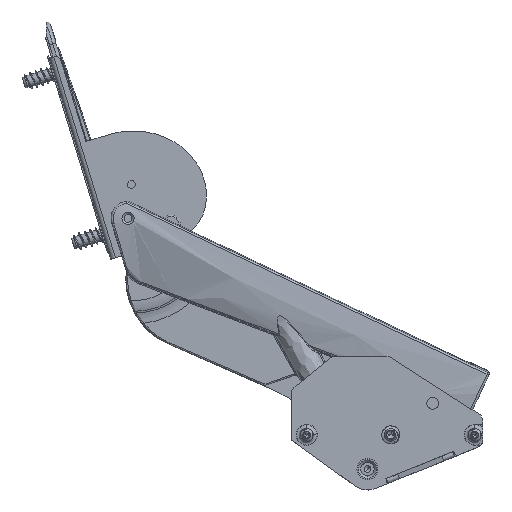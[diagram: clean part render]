
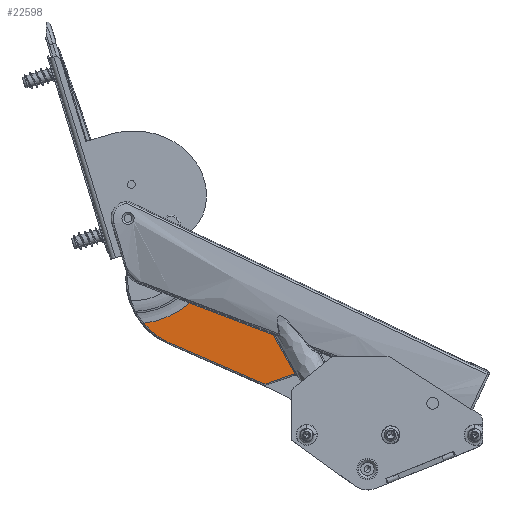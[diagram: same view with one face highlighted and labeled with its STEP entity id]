
A CAD part, left-side view. The second image highlights one B-rep face of the part: STEP entity #22598.
In plain terms, the highlighted planar face has unit normal (-1, 0, 0).
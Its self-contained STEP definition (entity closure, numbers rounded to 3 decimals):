
#7314=DIRECTION('',(0.,-0.81,-0.586));
#7315=VECTOR('',#7314,16.904);
#7316=CARTESIAN_POINT('',(-2.2,-102.002,-27.439));
#7317=LINE('',#7316,#7315);
#7321=CARTESIAN_POINT('',(-2.2,-115.697,
-37.348));
#7322=CARTESIAN_POINT('',(-2.2,-115.584,
-37.405));
#7323=CARTESIAN_POINT('',(-2.2,-115.364,
-37.538));
#7324=CARTESIAN_POINT('',(-2.2,-115.158,
-37.712));
#7325=CARTESIAN_POINT('',(-2.2,-115.06,-37.81));
#7330=DIRECTION('',(0.,0.707,-0.707));
#7331=VECTOR('',#7330,10.681);
#7332=CARTESIAN_POINT('',(-2.2,-115.06,-37.81));
#7333=LINE('',#7332,#7331);
#7337=CARTESIAN_POINT('',(-2.2,-107.507,-45.363));
#7338=CARTESIAN_POINT('',(-2.2,-107.442,-45.428));
#7339=CARTESIAN_POINT('',(-2.2,-107.301,-45.545));
#7340=CARTESIAN_POINT('',(-2.2,-107.061,-45.68));
#7341=CARTESIAN_POINT('',(-2.2,-106.793,-45.771));
#7342=CARTESIAN_POINT('',(-2.2,-106.598,-45.798));
#7343=CARTESIAN_POINT('',(-2.2,-106.496,-45.801));
#7348=DIRECTION('',(0.,0.999,-0.033));
#7349=VECTOR('',#7348,38.768);
#7350=CARTESIAN_POINT('',(-2.2,-106.496,-45.801));
#7351=LINE('',#7350,#7349);
#7355=CARTESIAN_POINT('',(-2.2,-66.862,-20.199));
#7356=DIRECTION('',(1.,0.,0.));
#7357=DIRECTION('',(0.,-0.033,-0.999));
#7358=AXIS2_PLACEMENT_3D('',#7355,#7356,#7357);
#7363=CARTESIAN_POINT('',(-2.2,-38.3,-17.379));
#7364=DIRECTION('',(-1.,0.,0.));
#7365=DIRECTION('',(0.,-0.533,-0.846));
#7366=AXIS2_PLACEMENT_3D('',#7363,#7364,#7365);
#7371=CARTESIAN_POINT('',(-2.2,-102.002,-27.439));
#7372=CARTESIAN_POINT('',(-2.2,-90.596,-28.33));
#7373=CARTESIAN_POINT('',(-2.2,-79.19,-29.222));
#7374=CARTESIAN_POINT('',(-2.2,-67.783,-30.113));
#11695=CARTESIAN_POINT('',(-2.2,-55.431,-44.545));
#12952=VERTEX_POINT('',#11695);
#12955=CARTESIAN_POINT('',(-2.2,-67.75,-47.08));
#12956=VERTEX_POINT('',#12955);
#12959=CARTESIAN_POINT('',(-2.2,-106.496,-45.801));
#12960=VERTEX_POINT('',#12959);
#12999=CARTESIAN_POINT('',(-2.2,-67.783,-30.113));
#13000=VERTEX_POINT('',#12999);
#13023=CARTESIAN_POINT('',(-2.2,-115.06,-37.81));
#13024=CARTESIAN_POINT('',(-2.2,-107.507,-45.363));
#13025=VERTEX_POINT('',#13023);
#13026=VERTEX_POINT('',#13024);
#13045=VERTEX_POINT('',#7321);
#13243=CARTESIAN_POINT('',(-2.2,-102.002,-27.439));
#13244=VERTEX_POINT('',#13243);
#22579=CARTESIAN_POINT('',(-2.2,0.,0.));
#22580=DIRECTION('',(-1.,0.,0.));
#22581=DIRECTION('',(0.,-1.,0.));
#22582=AXIS2_PLACEMENT_3D('',#22579,#22580,#22581);
#22583=PLANE('',#22582);
#22584=ORIENTED_EDGE('',*,*,#22334,.T.);
#22585=ORIENTED_EDGE('',*,*,#22558,.T.);
#22586=ORIENTED_EDGE('',*,*,#22569,.T.);
#22588=ORIENTED_EDGE('',*,*,#22587,.T.);
#22590=ORIENTED_EDGE('',*,*,#22589,.T.);
#22592=ORIENTED_EDGE('',*,*,#22591,.T.);
#22594=ORIENTED_EDGE('',*,*,#22593,.T.);
#22595=ORIENTED_EDGE('',*,*,#22302,.F.);
#22596=EDGE_LOOP('',(#22584,#22585,#22586,#22588,#22590,#22592,#22594,#22595));
#22597=FACE_OUTER_BOUND('',#22596,.F.);
#7326=B_SPLINE_CURVE_WITH_KNOTS('',3,(#7321,#7322,#7323,#7324,#7325),
.UNSPECIFIED.,.F.,.F.,(4,1,4),(0.,0.5,1.),.UNSPECIFIED.);
#7344=B_SPLINE_CURVE_WITH_KNOTS('',3,(#7337,#7338,#7339,#7340,#7341,#7342,
#7343),.UNSPECIFIED.,.F.,.F.,(4,1,1,1,4),(0.,0.25,0.5,0.75,1.),
.UNSPECIFIED.);
#7359=CIRCLE('',#7358,26.896);
#7367=CIRCLE('',#7366,32.116);
#7375=B_SPLINE_CURVE_WITH_KNOTS('',3,(#7371,#7372,#7373,#7374),.UNSPECIFIED.,
.F.,.F.,(4,4),(0.,1.),.UNSPECIFIED.);
#22302=EDGE_CURVE('',#13244,#13000,#7375,.T.);
#22334=EDGE_CURVE('',#13244,#13045,#7317,.T.);
#22558=EDGE_CURVE('',#13045,#13025,#7326,.T.);
#22569=EDGE_CURVE('',#13025,#13026,#7333,.T.);
#22587=EDGE_CURVE('',#13026,#12960,#7344,.T.);
#22589=EDGE_CURVE('',#12960,#12956,#7351,.T.);
#22591=EDGE_CURVE('',#12956,#12952,#7359,.T.);
#22593=EDGE_CURVE('',#12952,#13000,#7367,.T.);
#22598=ADVANCED_FACE('',(#22597),#22583,.T.);
